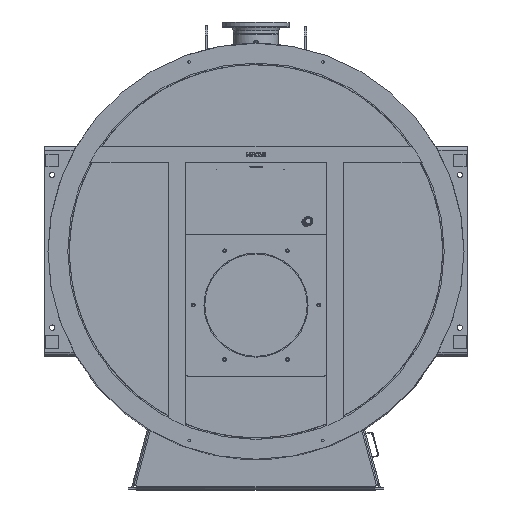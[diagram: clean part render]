
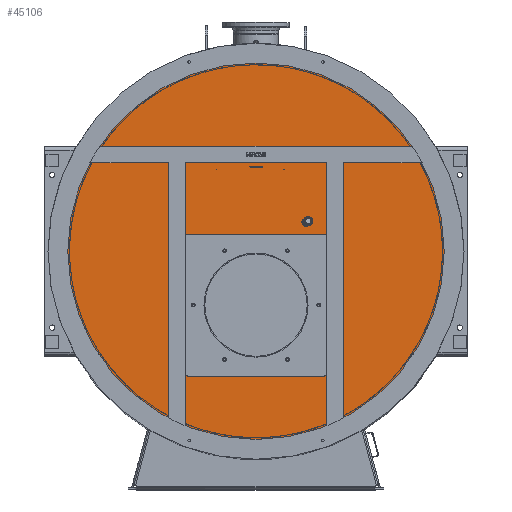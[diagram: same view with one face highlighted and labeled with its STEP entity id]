
A CAD part, top view. The second image highlights one B-rep face of the part: STEP entity #45106.
In plain terms, the highlighted planar face has unit normal (0, 0, 1).
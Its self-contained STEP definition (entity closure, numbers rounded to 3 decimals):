
#44987=CARTESIAN_POINT('',(190.,-163.25,478.));
#44988=DIRECTION('',(0.,0.,1.));
#44989=DIRECTION('',(1.,0.,0.));
#44990=AXIS2_PLACEMENT_3D('',#44987,#44988,#44989);
#44991=PLANE('',#44990);
#44992=CARTESIAN_POINT('',(-430.,-736.5,478.));
#44993=VERTEX_POINT('',#44992);
#44994=CARTESIAN_POINT('',(-410.,-756.5,478.));
#44995=VERTEX_POINT('',#44994);
#44996=CARTESIAN_POINT('',(-410.,-736.5,478.));
#44997=DIRECTION('',(0.,0.,1.));
#44998=DIRECTION('',(1.,0.,-0.));
#44999=AXIS2_PLACEMENT_3D('',#44996,#44997,#44998);
#45000=CIRCLE('',#44999,20.);
#45001=EDGE_CURVE('',#44993,#44995,#45000,.T.);
#45002=ORIENTED_EDGE('',*,*,#45001,.F.);
#45003=CARTESIAN_POINT('',(-430.,83.5,478.));
#45004=VERTEX_POINT('',#45003);
#45005=CARTESIAN_POINT('',(-430.,-736.5,478.));
#45006=DIRECTION('',(0.,1.,0.));
#45007=VECTOR('',#45006,820.);
#45008=LINE('',#45005,#45007);
#45009=EDGE_CURVE('',#44993,#45004,#45008,.T.);
#45010=ORIENTED_EDGE('',*,*,#45009,.T.);
#45011=CARTESIAN_POINT('',(-410.,103.5,478.));
#45012=VERTEX_POINT('',#45011);
#45013=CARTESIAN_POINT('',(-410.,83.5,478.));
#45014=DIRECTION('',(0.,0.,1.));
#45015=DIRECTION('',(1.,0.,-0.));
#45016=AXIS2_PLACEMENT_3D('',#45013,#45014,#45015);
#45017=CIRCLE('',#45016,20.);
#45018=EDGE_CURVE('',#45012,#45004,#45017,.T.);
#45019=ORIENTED_EDGE('',*,*,#45018,.F.);
#45020=CARTESIAN_POINT('',(410.,103.5,478.));
#45021=VERTEX_POINT('',#45020);
#45022=CARTESIAN_POINT('',(410.,103.5,478.));
#45023=DIRECTION('',(-1.,0.,0.));
#45024=VECTOR('',#45023,820.);
#45025=LINE('',#45022,#45024);
#45026=EDGE_CURVE('',#45021,#45012,#45025,.T.);
#45027=ORIENTED_EDGE('',*,*,#45026,.F.);
#45028=CARTESIAN_POINT('',(430.,83.5,478.));
#45029=VERTEX_POINT('',#45028);
#45030=CARTESIAN_POINT('',(410.,83.5,478.));
#45031=DIRECTION('',(0.,0.,1.));
#45032=DIRECTION('',(1.,0.,-0.));
#45033=AXIS2_PLACEMENT_3D('',#45030,#45031,#45032);
#45034=CIRCLE('',#45033,20.);
#45035=EDGE_CURVE('',#45029,#45021,#45034,.T.);
#45036=ORIENTED_EDGE('',*,*,#45035,.F.);
#45037=CARTESIAN_POINT('',(430.,-736.5,478.));
#45038=VERTEX_POINT('',#45037);
#45039=CARTESIAN_POINT('',(430.,-736.5,478.));
#45040=DIRECTION('',(0.,1.,0.));
#45041=VECTOR('',#45040,820.);
#45042=LINE('',#45039,#45041);
#45043=EDGE_CURVE('',#45038,#45029,#45042,.T.);
#45044=ORIENTED_EDGE('',*,*,#45043,.F.);
#45045=CARTESIAN_POINT('',(410.,-756.5,478.));
#45046=VERTEX_POINT('',#45045);
#45047=CARTESIAN_POINT('',(410.,-736.5,478.));
#45048=DIRECTION('',(0.,0.,1.));
#45049=DIRECTION('',(1.,0.,-0.));
#45050=AXIS2_PLACEMENT_3D('',#45047,#45048,#45049);
#45051=CIRCLE('',#45050,20.);
#45052=EDGE_CURVE('',#45046,#45038,#45051,.T.);
#45053=ORIENTED_EDGE('',*,*,#45052,.F.);
#45054=CARTESIAN_POINT('',(-410.,-756.5,478.));
#45055=DIRECTION('',(1.,0.,-0.));
#45056=VECTOR('',#45055,820.);
#45057=LINE('',#45054,#45056);
#45058=EDGE_CURVE('',#44995,#45046,#45057,.T.);
#45059=ORIENTED_EDGE('',*,*,#45058,.F.);
#45060=EDGE_LOOP('',(#45002,#45010,#45019,#45027,#45036,#45044,#45053,#45059));
#45061=FACE_BOUND('',#45060,.T.);
#45062=CARTESIAN_POINT('',(280.609,175.,478.));
#45063=VERTEX_POINT('',#45062);
#45064=CARTESIAN_POINT('',(303.109,175.,478.));
#45065=DIRECTION('',(-0.,-0.,1.));
#45066=DIRECTION('',(-1.,0.,0.));
#45067=AXIS2_PLACEMENT_3D('',#45064,#45065,#45066);
#45068=CIRCLE('',#45067,22.5);
#45069=EDGE_CURVE('',#45063,#45063,#45068,.T.);
#45070=ORIENTED_EDGE('',*,*,#45069,.F.);
#45071=EDGE_LOOP('',(#45070));
#45072=FACE_BOUND('',#45071,.T.);
#45073=CARTESIAN_POINT('',(-238.5,495.,478.));
#45074=VERTEX_POINT('',#45073);
#45075=CARTESIAN_POINT('',(-240.,495.,478.));
#45076=DIRECTION('',(0.,0.,1.));
#45077=DIRECTION('',(1.,0.,-0.));
#45078=AXIS2_PLACEMENT_3D('',#45075,#45076,#45077);
#45079=CIRCLE('',#45078,1.5);
#45080=EDGE_CURVE('',#45074,#45074,#45079,.T.);
#45081=ORIENTED_EDGE('',*,*,#45080,.F.);
#45082=EDGE_LOOP('',(#45081));
#45083=FACE_BOUND('',#45082,.T.);
#45084=CARTESIAN_POINT('',(171.5,495.,478.));
#45085=VERTEX_POINT('',#45084);
#45086=CARTESIAN_POINT('',(170.,495.,478.));
#45087=DIRECTION('',(0.,0.,1.));
#45088=DIRECTION('',(1.,0.,-0.));
#45089=AXIS2_PLACEMENT_3D('',#45086,#45087,#45088);
#45090=CIRCLE('',#45089,1.5);
#45091=EDGE_CURVE('',#45085,#45085,#45090,.T.);
#45092=ORIENTED_EDGE('',*,*,#45091,.F.);
#45093=EDGE_LOOP('',(#45092));
#45094=FACE_BOUND('',#45093,.T.);
#45095=CARTESIAN_POINT('',(-1140.,-0.,478.));
#45096=VERTEX_POINT('',#45095);
#45097=CARTESIAN_POINT('',(0.,0.,478.));
#45098=DIRECTION('',(-0.,-0.,1.));
#45099=DIRECTION('',(-1.,0.,0.));
#45100=AXIS2_PLACEMENT_3D('',#45097,#45098,#45099);
#45101=CIRCLE('',#45100,1140.);
#45102=EDGE_CURVE('',#45096,#45096,#45101,.T.);
#45103=ORIENTED_EDGE('',*,*,#45102,.T.);
#45104=EDGE_LOOP('',(#45103));
#45105=FACE_BOUND('',#45104,.T.);
#45106=ADVANCED_FACE('',(#45061,#45072,#45083,#45094,#45105),#44991,.T.);
